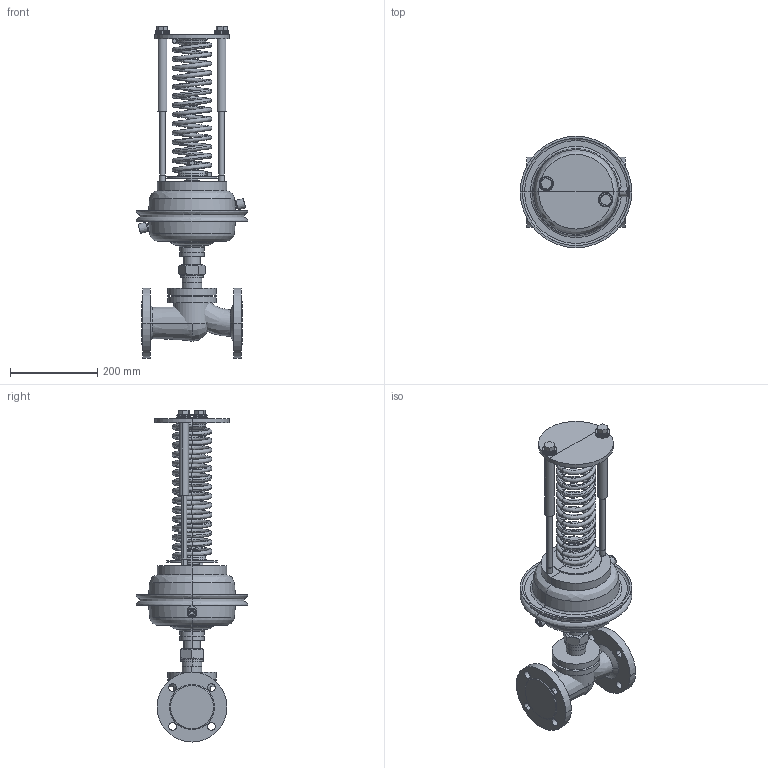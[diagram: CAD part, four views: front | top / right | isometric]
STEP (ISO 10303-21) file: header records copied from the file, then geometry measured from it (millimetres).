
FILE_DESCRIPTION(/* description */ (''),/* implementation_level */ '2;1');
FILE_NAME(/* name */ 'ETM_Регулятордавления_УРРД_НЗ_РД_DN50',/* time_stamp */ '2026-04-18T15:01:29+03:00',/* author */ (''),/* organization */ (''),/* preprocessor_version */ 'ST-DEVELOPER v20',/* originating_system */ '',/* authorisation */ '');
FILE_SCHEMA (('AP242_MANAGED_MODEL_BASED_3D_ENGINEERING_MIM_LF { 1 0 10303 442 1 1 4 }'));
Length unit declared in the file: millimetre
Products named in the file (13): TopLevelAssembly; Выдавливание; Переход; Выдавливание_
1; Переход_1; Переход_2; Переход_3; Объемная геометрия 
присоединена; Выдавливание_
2; Выдавливание_
3; Объемная геометрия 
присоединена_1; Выдавливание_
4; Пружина желтая
Assembly tree (12 placements, depth 2):
  TopLevelAssembly
    Выдавливание
    Переход
    Выдавливание_
1
    Переход_1
    Переход_2
    Переход_3
    Объемная геометрия 
присоединена
    Выдавливание_
2
    Выдавливание_
3
    Объемная геометрия 
присоединена_1
    Выдавливание_
4
    Пружина желтая
Bounding box: 255.07 x 255.07 x 759.01 mm (x, y, z)
Volume: 7252052.4 mm3; surface area: 803722.1 mm2
Topology: 33 solids, 33 shells, 506 faces, 1030 edges, 528 vertices
Faces by surface type: bspline 191, plane 183, cylinder 122, cone 10
Entity records: 16493 total; most frequent: CARTESIAN_POINT 5807, DIRECTION 2260, ORIENTED_EDGE 1968, EDGE_CURVE 984, AXIS2_PLACEMENT_3D 960, CIRCLE 619, VERTEX_POINT 528, EDGE_LOOP 526
